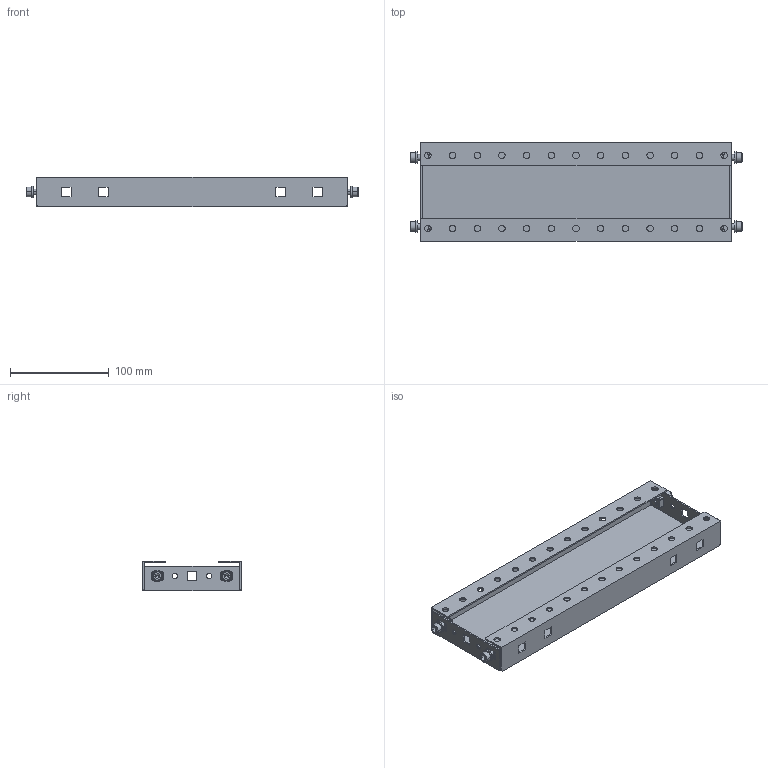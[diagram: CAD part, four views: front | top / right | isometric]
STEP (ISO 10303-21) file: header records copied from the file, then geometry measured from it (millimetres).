
FILE_DESCRIPTION(('Open CASCADE Model'),'2;1');
FILE_NAME('Open CASCADE Shape Model','2025-02-07T17:53:29',('Author'),( 'Open CASCADE'),'Open CASCADE STEP processor 7.8','Open CASCADE 7.8' ,'Unknown');
FILE_SCHEMA(('AUTOMOTIVE_DESIGN { 1 0 10303 214 1 1 1 1 }'));
Length unit declared in the file: millimetre
Products named in the file (5): Compound1; Solid1; Solid2; Solid3; Solid4
Assembly tree (13 placements, depth 2):
  Compound1
    Solid1
    Solid2  x4
    Solid3  x4
    Solid4  x4
Bounding box: 336.2 x 100 x 30 mm (x, y, z)
Volume: 103621 mm3; surface area: 141136.5 mm2
Topology: 13 solids, 13 shells, 712 faces, 1982 edges, 1288 vertices
Faces by surface type: plane 378, cylinder 270, cone 32, bspline 16, torus 16
Full cylindrical faces by diameter (mm): 5.5 x4, 6.5 x26
Entity records: 22124 total; most frequent: CARTESIAN_POINT 14742, ORIENTED_EDGE 1572, DIRECTION 1396, EDGE_CURVE 786, VERTEX_POINT 517, LINE 486, VECTOR 486, AXIS2_PLACEMENT_3D 455
